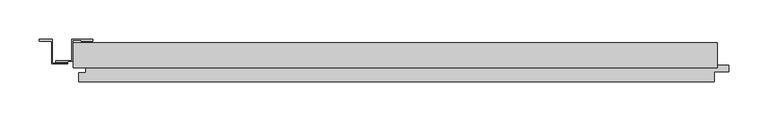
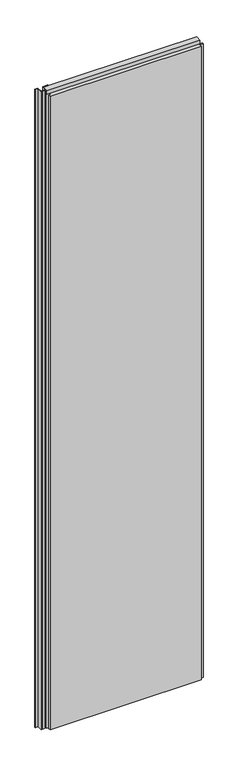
"""IFC4 building model written with IfcOpenShell, lengths in millimetres: plate geometry, Trimo_Qbiss Screen_Normal Panel-VERTICAL : HR - FB-F."""

import ifcopenshell
import ifcopenshell.guid

model = None  # the IFC model being written
_history = None  # IfcOwnerHistory: only IFC2X3 demands one
_inside = {}  # id of a spatial element -> (the spatial element, [elements in it])
_under = {}  # id of a project, library or spatial element -> (it, [spatial elements below it])
_declared = {}  # id of a project -> (the project, [libraries it declares])
_typed = {}  # id of a type object -> (the type object, [elements of that type])
_made_of = {}  # id of a material, layer set ... -> (it, [elements and type objects made of it])


def new_model(schema):
    """Start an empty IFC model of exactly this schema.

    Asked for "IFC4X3", IfcOpenShell would pick the latest addendum, in which some entities
    have other attributes; the version numbers below select the first issue.
    IFC2X3 requires an IfcOwnerHistory on every rooted entity: one is made here for all.
    """
    global model, _history
    if schema == "IFC4X3":
        model = ifcopenshell.file(schema_version=(4, 3, 0, 0))
    else:
        model = ifcopenshell.file(schema=schema)
    _inside.clear()
    _under.clear()
    _declared.clear()
    _typed.clear()
    _made_of.clear()
    _history = None
    if model.schema == "IFC2X3":
        org = make("IfcOrganization", Name="unknown")
        user = make(
            "IfcPersonAndOrganization",
            ThePerson=make("IfcPerson", FamilyName="unknown"),
            TheOrganization=org,
        )
        app = make(
            "IfcApplication",
            ApplicationDeveloper=org,
            Version="unknown",
            ApplicationFullName="unknown",
            ApplicationIdentifier="unknown",
        )
        _history = make(
            "IfcOwnerHistory",
            OwningUser=user,
            OwningApplication=app,
            ChangeAction="ADDED",
            CreationDate=0,
        )
    return model


def make(cls, **values):
    """One entity of the class cls with the attributes given. An attribute that is None is left unset."""
    return model.create_entity(
        cls, **{name: value for name, value in values.items() if value is not None}
    )


def rooted(cls, **values):
    """An entity with a GlobalId (a new one), such as an element, a storey or a relation."""
    return make(cls, GlobalId=ifcopenshell.guid.new(), OwnerHistory=_history, **values)


def si_unit(unit_type, name, prefix=None):
    """IfcSIUnit, for example si_unit("LENGTHUNIT", "METRE", prefix="MILLI")."""
    return make("IfcSIUnit", UnitType=unit_type, Prefix=prefix, Name=name)


def assignment(units):
    """IfcUnitAssignment: the units of a project."""
    return None if units is None else make("IfcUnitAssignment", Units=units)


def point(xyz):
    """IfcCartesianPoint."""
    return None if xyz is None else make("IfcCartesianPoint", Coordinates=xyz)


def direction(xyz):
    """IfcDirection."""
    return None if xyz is None else make("IfcDirection", DirectionRatios=xyz)


def frame(location, z_axis=None, x_axis=None):
    """IfcAxis2Placement3D, a coordinate frame: its origin and axes. An axis left out is left unset."""
    return make(
        "IfcAxis2Placement3D",
        Location=point(location),
        Axis=direction(z_axis),
        RefDirection=direction(x_axis),
    )


def origin():
    """The frame at (0, 0, 0) with its axes left unset."""
    return frame((0.0, 0.0, 0.0))


def place(relative_to, where):
    """IfcLocalPlacement: puts the frame where relative to a parent placement (None: the world)."""
    return make(
        "IfcLocalPlacement", PlacementRelTo=relative_to, RelativePlacement=where
    )


def context(
    kind, dimensions, precision=None, world=None, true_north=None, identifier=None
):
    """IfcGeometricRepresentationContext, for example the 3D "Model" context."""
    return make(
        "IfcGeometricRepresentationContext",
        ContextIdentifier=identifier,
        ContextType=kind,
        CoordinateSpaceDimension=dimensions,
        Precision=precision,
        WorldCoordinateSystem=world,
        TrueNorth=true_north,
    )


def project(units=None, contexts=None):
    """IfcProject with its units and contexts."""
    return rooted(
        "IfcProject",
        Name="project",
        RepresentationContexts=contexts,
        UnitsInContext=assignment(units),
    )


def spatial(cls, under=None, at=None, **own):
    """A site, building, storey or space (cls), placed at a placement, below another one or the project."""
    s = rooted(cls, ObjectPlacement=at, **own)
    if under is not None:
        _under.setdefault(under.id(), (under, []))[1].append(s)
    return s


def polyline(points):
    """IfcPolyline through the points."""
    return make("IfcPolyline", Points=[point(p) for p in points])


def outline(outer, holes=None, kind="AREA"):
    """IfcArbitraryClosedProfileDef: a profile drawn as a closed curve; with holes, ...WithVoids."""
    if holes is None:
        return make("IfcArbitraryClosedProfileDef", ProfileType=kind, OuterCurve=outer)
    return make(
        "IfcArbitraryProfileDefWithVoids",
        ProfileType=kind,
        OuterCurve=outer,
        InnerCurves=holes,
    )


def extrude(swept, where, along, depth):
    """IfcExtrudedAreaSolid: the profile swept, set in the frame where, extruded along a direction by depth."""
    return make(
        "IfcExtrudedAreaSolid",
        SweptArea=swept,
        Position=where,
        ExtrudedDirection=direction(along),
        Depth=depth,
    )


def shape(context_of_items, identifier, shape_type, items):
    """IfcShapeRepresentation: the items that make up one representation, for example the "Body"."""
    return make(
        "IfcShapeRepresentation",
        ContextOfItems=context_of_items,
        RepresentationIdentifier=identifier,
        RepresentationType=shape_type,
        Items=items,
    )


def source(mapping_origin, context_of_items, identifier, shape_type, items):
    """IfcRepresentationMap: a shape defined once, which mapped items show again and again."""
    return make(
        "IfcRepresentationMap",
        MappingOrigin=mapping_origin,
        MappedRepresentation=shape(context_of_items, identifier, shape_type, items),
    )


def transform(
    local_origin,
    x_axis=None,
    y_axis=None,
    z_axis=None,
    scale=None,
    scale2=None,
    scale3=None,
    uniform=True,
):
    """IfcCartesianTransformationOperator3D, or its non-uniform kind. x_axis, y_axis, z_axis: its Axis1, 2, 3."""
    if uniform:
        return make(
            "IfcCartesianTransformationOperator3D",
            Axis1=direction(x_axis),
            Axis2=direction(y_axis),
            LocalOrigin=point(local_origin),
            Scale=scale,
            Axis3=direction(z_axis),
        )
    return make(
        "IfcCartesianTransformationOperator3DnonUniform",
        Axis1=direction(x_axis),
        Axis2=direction(y_axis),
        LocalOrigin=point(local_origin),
        Scale=scale,
        Axis3=direction(z_axis),
        Scale2=scale2,
        Scale3=scale3,
    )


def mapped(mapping_source, mapping_target):
    """IfcMappedItem: shows the shape of a source again, moved by a transform."""
    return make(
        "IfcMappedItem", MappingSource=mapping_source, MappingTarget=mapping_target
    )


def made_of(thing, what):
    """Note that an element or type object is made of a material, layer set ...; save() writes the relation."""
    if what is not None:
        _made_of.setdefault(what.id(), (what, []))[1].append(thing)
    return thing


def element(
    cls,
    number,
    at=None,
    inside=None,
    cuts=None,
    type_object=None,
    material=None,
    context=None,
    identifier="Body",
    shape_type=None,
    held_by="IfcProductDefinitionShape",
    body=None,
    shapes=None,
    **own,
):
    """One element of the class cls, such as IfcWall. Its Tag is "e" and its number.

    at: its placement. inside: the storey or other place that contains it. cuts: it is an
    opening in that element (IfcRelVoidsElement). A single representation is given by context,
    identifier, shape_type and body (its items); several are given by shapes. held_by: the class
    of the entity that holds the representations. save() writes the other relations.
    """
    e = rooted(cls, Tag="e%d" % number, ObjectPlacement=at, **own)
    if body is not None:
        shapes = [shape(context, identifier, shape_type, body)]
    if shapes is not None:
        e.Representation = make(held_by, Representations=shapes)
    if inside is not None:
        _inside.setdefault(inside.id(), (inside, []))[1].append(e)
    if cuts is not None:
        rooted(
            "IfcRelVoidsElement", RelatingBuildingElement=cuts, RelatedOpeningElement=e
        )
    if type_object is not None:
        _typed.setdefault(type_object.id(), (type_object, []))[1].append(e)
    return made_of(e, material)


def aggregate(whole, parts):
    """IfcRelAggregates: a whole, such as a stair, and the parts it consists of."""
    return rooted("IfcRelAggregates", RelatingObject=whole, RelatedObjects=parts)


def save(model, path):
    """Write the relations noted so far, then the file.

    IfcRelAggregates (storeys below a building ...), IfcRelContainedInSpatialStructure (elements
    in a storey), IfcRelDefinesByType, IfcRelAssociatesMaterial and IfcRelDeclares: one each for
    every whole, place, type object, material and project.
    """
    for whole, parts in _under.values():
        aggregate(whole, parts)
    for where, things in _inside.values():
        rooted(
            "IfcRelContainedInSpatialStructure",
            RelatedElements=things,
            RelatingStructure=where,
        )
    for kind, things in _typed.values():
        rooted("IfcRelDefinesByType", RelatedObjects=things, RelatingType=kind)
    for what, things in _made_of.values():
        rooted("IfcRelAssociatesMaterial", RelatedObjects=things, RelatingMaterial=what)
    for by, libraries in _declared.values():
        rooted("IfcRelDeclares", RelatingContext=by, RelatedDefinitions=libraries)
    model.write(path)


def plate_28a3029d(model_context):
    return source(origin(), model_context, "Body", "SweptSolid", [
        extrude(outline(polyline([(-361.0, 127.6), (-376.0, 127.6), (-376.0, 128.4), (-361.8, 128.4), (-361.8, 129.2), (-387.0, 129.2), (-387.0, 102.4), (-407.2, 102.4), (-407.2, 101.6), (-393.0, 101.6), (-393.0, 100.8), (-408.0, 100.8), (-408.0, 103.2), (-387.8, 103.2), (-387.8, 130.0), (-361.0, 130.0), (-361.0, 127.6)])), frame((0.0, 0.0, 12.5), z_axis=(0.0, 0.0, 1.0), x_axis=(1.0, 0.0, 0.0)), (0.0, 0.0, 1.0), 3600.0),
        extrude(outline(polyline([(-393.0, 100.0), (-393.0, 99.2), (-413.6, 99.2), (-413.6, 129.2), (-428.2, 129.2), (-428.2, 128.4), (-414.0, 128.4), (-414.0, 127.6), (-429.0, 127.6), (-429.0, 130.0), (-412.8, 130.0), (-412.8, 100.0), (-393.0, 100.0)])), frame((0.0, 0.0, 12.5), z_axis=(0.0, 0.0, 1.0), x_axis=(1.0, 0.0, 0.0)), (0.0, 0.0, 1.0), 3600.0),
        extrude(outline(polyline([(-386.0, 93.9), (-386.0, 126.0), (431.0, 126.0), (431.0, 93.9), (-386.0, 93.9)])), frame((0.0, 0.0, 3590.5), z_axis=(0.0, 0.0, 1.0), x_axis=(1.0, 0.0, 0.0)), (0.0, 0.0, 1.0), 19.0),
        extrude(outline(polyline([(427.0, 97.0), (445.5, 97.0), (445.5, 89.0), (427.0, 89.0), (427.0, 76.0), (-379.0, 76.0), (-379.0, 88.0), (-370.5, 88.0), (-370.5, 98.0), (-386.0, 98.0), (-386.0, 126.0), (427.0, 126.0), (427.0, 97.0)])), frame((0.0, 0.0, 12.5), z_axis=(0.0, 0.0, 1.0), x_axis=(1.0, 0.0, 0.0)), (0.0, 0.0, 1.0), 3575.0),
    ])


if __name__ == "__main__":
    model = new_model("IFC4")
    model_context = context("Model", 3, world=origin())
    ifc_project = project(units=[si_unit("LENGTHUNIT", "METRE", prefix="MILLI")], contexts=[model_context])
    site = spatial("IfcSite", under=ifc_project)
    building = spatial("IfcBuilding", under=site)
    placement = place(None, origin())
    plate_shape = plate_28a3029d(model_context)
    element("IfcPlate", 1, ObjectType="Trimo_Qbiss Screen_Normal Panel-VERTICAL : HR - FB-F", at=placement, inside=building, context=model_context, shape_type="MappedRepresentation", body=[
        mapped(plate_shape, transform((0.0, 0.0, 0.0), x_axis=(1.0, 0.0, 0.0), y_axis=(0.0, 1.0, 0.0), z_axis=(0.0, 0.0, 1.0))),
    ])
    save(model, "model.ifc")
